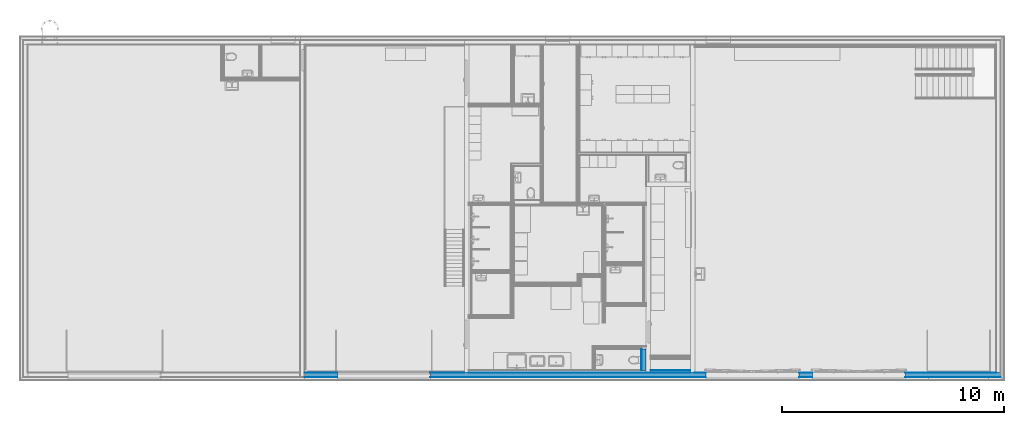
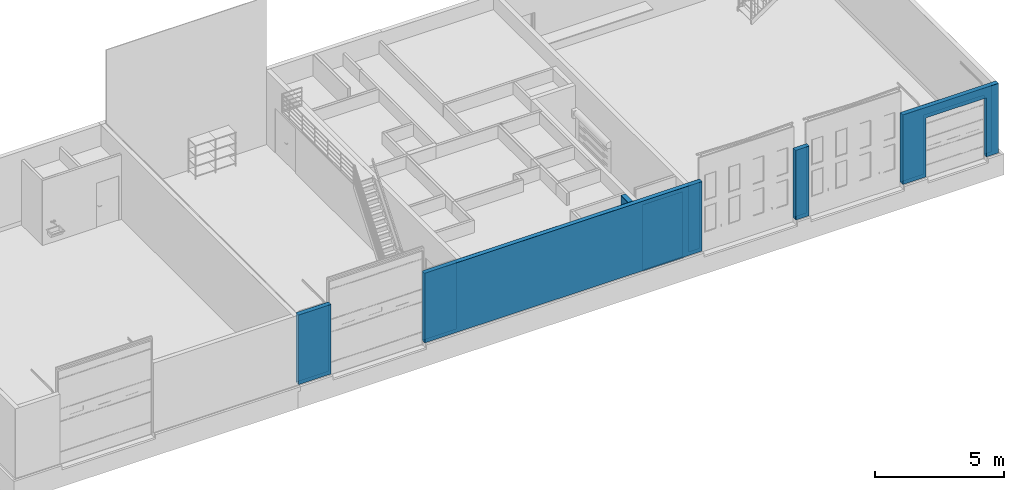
# One storey, part 5 of 67: 18 building element parts, 3 openings, 3 elements without a shape of their own.
"""IFC4 building model written with IfcOpenShell, lengths in millimetres."""

from ifc_helpers import new_model, entity, si_unit, converted_unit, direction, frame, origin, place, context, subcontext, project, spatial, indexed_curve, outline, extrude, polygons, material, type_object, element, aggregate, save


model = new_model("IFC4")

# Units and contexts
model_context = context("Model", 3, precision=0.01, world=origin(), true_north=direction((0.0, 1.0)))
body_context = subcontext(model_context, "Body", "Model", "MODEL_VIEW")
ifc_project = project(units=[si_unit("LENGTHUNIT", "METRE", prefix="MILLI"), si_unit("AREAUNIT", "SQUARE_METRE"), si_unit("VOLUMEUNIT", "CUBIC_METRE"), converted_unit("PLANEANGLEUNIT", "DEGREE", entity("IfcPlaneAngleMeasure", 0.017453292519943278), si_unit("PLANEANGLEUNIT", "RADIAN"), dimensions=[0, 0, 0, 0, 0, 0, 0])], contexts=[model_context])

# Site, building, storey
site_placement = place(None, origin())
site = spatial("IfcSite", under=ifc_project, at=site_placement, Name="Tomtens navn", CompositionType="ELEMENT")
building_placement = place(site_placement, origin())
building = spatial("IfcBuilding", under=site, at=building_placement, Name="Byggets navn", CompositionType="ELEMENT")
storey_placement = place(building_placement, origin())
storey = spatial("IfcBuildingStorey", under=building, at=storey_placement, Name="Level 01", CompositionType="ELEMENT", Elevation=2.1993652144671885e-25)

# Wall, openings, building element parts
wall_type_1 = type_object("IfcWallType", Name="Basic Wall:YV02 Sandwichvegg 200", PredefinedType="STANDARD")
wall_1_placement = place(storey_placement, frame((82622.8535281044, 7961.466456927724, 200.0), z_axis=(0.0, 0.0, 1.0), x_axis=(-1.0, 0.0, 0.0)))
wall_1 = element("IfcWall", 1, at=wall_1_placement, inside=storey, type_object=wall_type_1, Name="Basic Wall:YV02 Sandwichvegg 200", PredefinedType="NOTDEFINED")
opening_1_placement = place(wall_1_placement, frame((9100.0, -100.0, -200.0)))
element("IfcOpeningElement", 2, at=opening_1_placement, cuts=wall_1, Name="ASSA_ABLOY_FoldingDoor_FD2350P_2+2_Manual:42x45:1", PredefinedType="OPENING", context=body_context, shape_type="SweptSolid", body=[
    extrude(outline(indexed_curve([(0.0, 5.414335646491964e-13), (4499.999999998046, 5.414335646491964e-13), (4499.999999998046, 4199.999999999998), (0.0, 4199.999999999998), (0.0, 5.414335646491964e-13)], self_intersect=False)), frame((0.0, 0.0, 0.0), z_axis=(0.0, 1.0, 0.0), x_axis=(0.0, 0.0, 1.0)), (0.0, 0.0, 1.0), 200.0),
])
opening_2_placement = place(wall_1_placement, frame((4300.0, -100.0, -200.0)))
element("IfcOpeningElement", 3, at=opening_2_placement, cuts=wall_1, Name="ASSA_ABLOY_FoldingDoor_FD2350P_2+2_Manual:42x45:1", PredefinedType="OPENING", context=body_context, shape_type="SweptSolid", body=[
    extrude(outline(indexed_curve([(0.0, 5.414335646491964e-13), (4499.999999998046, 5.414335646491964e-13), (4499.999999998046, 4199.999999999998), (0.0, 4199.999999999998), (0.0, 5.414335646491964e-13)], self_intersect=False)), frame((0.0, 0.0, 0.0), z_axis=(0.0, 1.0, 0.0), x_axis=(0.0, 0.0, 1.0)), (0.0, 0.0, 1.0), 200.0),
])
opening_3_placement = place(wall_1_placement, frame((3250.0, 100.0, -200.0)))
element("IfcOpeningElement", 4, at=opening_3_placement, cuts=wall_1, Name="Garage Door_9:P04 2700 x 3000:1", PredefinedType="OPENING", context=body_context, shape_type="SweptSolid", body=[
    extrude(outline(indexed_curve([(0.0, 1.028723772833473e-11), (2999.999999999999, 1.028723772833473e-11), (2999.999999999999, 2700.00000000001), (0.0, 2700.00000000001), (0.0, 1.028723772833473e-11)], self_intersect=False)), frame((0.0, 0.0, 0.0), z_axis=(0.0, -1.0, 0.0), x_axis=(0.0, 0.0, 1.0)), (0.0, 0.0, 1.0), 200.0),
])
ifc_material_1 = material(Name="Metall - Malt overflate - Mørk Grå, Matt", Category="Unassigned")
building_element_part_1_placement = place(wall_1_placement, origin())
building_element_part_1 = element("IfcBuildingElementPart", 5, at=building_element_part_1_placement, material=ifc_material_1, Name="Metall - Malt overflate - Mørk Grå, Matt", context=body_context, shape_type="SweptSolid", body=[
    extrude(outline(indexed_curve([(-0.9999999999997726, -300.0000000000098), (0.9999999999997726, -300.0000000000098), (0.9999999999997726, 300.0000000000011), (-0.9999999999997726, 300.0000000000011), (-0.9999999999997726, -300.0000000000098)], self_intersect=False)), frame((8800.0, 99.0, 0.0), z_axis=(0.0, 0.0, 1.0), x_axis=(0.0, 1.0, 0.0)), (0.0, 0.0, 1.0), 3299.999999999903),
])
building_element_part_2_placement = place(wall_1_placement, origin())
building_element_part_2 = element("IfcBuildingElementPart", 6, at=building_element_part_2_placement, material=ifc_material_1, Name="Metall - Malt overflate - Mørk Grå, Matt", context=body_context, shape_type="SweptSolid", body=[
    extrude(outline(indexed_curve([(-0.9999999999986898, -6219.999999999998), (1.0000000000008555, -6219.999999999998), (0.9999999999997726, 6220.000000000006), (-0.9999999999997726, 6220.000000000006), (-0.9999999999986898, -6219.999999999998)], self_intersect=False)), frame((19520.0, 99.0, 0.0), z_axis=(0.0, 0.0, 1.0), x_axis=(0.0, 1.0, 0.0)), (0.0, 0.0, 1.0), 3299.999999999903),
])
building_element_part_3_placement = place(wall_1_placement, origin())
building_element_part_3 = element("IfcBuildingElementPart", 7, at=building_element_part_3_placement, material=ifc_material_1, Name="Metall - Malt overflate - Mørk Grå, Matt", context=body_context, shape_type="SweptSolid", body=[
    extrude(outline(indexed_curve([(-0.9999999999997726, -735.0000000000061), (0.9999999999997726, -734.9999999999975), (0.9999999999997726, 735.0000000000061), (-0.9999999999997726, 735.0000000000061), (-0.9999999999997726, -735.0000000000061)], self_intersect=False)), frame((30675.0, 99.0, 0.0), z_axis=(0.0, 0.0, 1.0), x_axis=(0.0, 1.0, 0.0)), (0.0, 0.0, 1.0), 3299.999999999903),
])
building_element_part_4_placement = place(wall_1_placement, frame((4300.0, 100.0, 0.0)))
building_element_part_4 = element("IfcBuildingElementPart", 8, at=building_element_part_4_placement, material=ifc_material_1, Name="Metall - Malt overflate - Mørk Grå, Matt", context=body_context, shape_type="Tessellation", body=[
    polygons([(-1049.9999999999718, -1.9999999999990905, 0.0), (-8.699627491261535e-13, -1.9999999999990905, 0.0), (-8.699627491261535e-13, -1.9999999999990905, 3299.999999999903), (-4299.999999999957, -1.9999999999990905, 3299.999999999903), (-4299.999999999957, -1.9999999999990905, 0.0), (-3749.999999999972, -1.9999999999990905, 0.0), (-3749.999999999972, -1.9999999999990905, 2799.999999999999), (-1049.9999999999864, -1.9999999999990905, 2799.999999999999), (-4299.999999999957, 0.0, 0.0), (-3749.999999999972, 0.0, 0.0), (-8.697414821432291e-13, 0.0, 0.0), (-8.697414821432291e-13, 0.0, 3299.999999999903), (-4299.999999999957, 0.0, 3299.999999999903), (-1049.9999999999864, 0.0, 2799.999999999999), (-1049.9999999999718, 0.0, 0.0), (-3749.999999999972, 0.0, 2799.999999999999)], [[[1, 2, 3, 4, 5, 6, 7, 8]], [[9, 10, 6, 5]], [[11, 12, 3, 2]], [[13, 9, 5, 4]], [[14, 15, 1, 8]], [[10, 16, 7, 6]], [[16, 14, 8, 7]], [[12, 13, 4, 3]], [[15, 11, 2, 1]], [[13, 12, 11, 15, 14, 16, 10, 9]]], closed=True),
])
ifc_material_2 = material(Name="Rustfritt Stål", Category="Metal")
building_element_part_5_placement = place(wall_1_placement, frame((24000.0, -98.0, 0.0)))
building_element_part_5 = element("IfcBuildingElementPart", 9, at=building_element_part_5_placement, material=ifc_material_2, Name="Rustfritt Stål", context=body_context, shape_type="Tessellation", body=[
    polygons([(-8000.000000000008, -2.0, 2887.999999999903), (-8000.000000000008, 0.0, 2887.999999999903), (-8000.000000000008, 0.0, 0.0), (-8000.000000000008, -2.0, 0.0), (-8199.999999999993, -2.0000000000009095, 2887.999999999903), (-8199.999999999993, 0.0, 2887.999999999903), (-8199.999999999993, -2.0, 0.0), (-8200.000000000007, 0.0, 0.0), (-9999.999999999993, -2.0000000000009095, 0.0), (-9999.999999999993, -2.0000000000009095, 3299.999999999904), (-9999.999999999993, -9.094947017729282e-13, 3299.999999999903), (-9999.999999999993, -9.094947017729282e-13, 0.0), (-8.918681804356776e-13, -2.0000000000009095, 3299.999999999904), (-8.918681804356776e-13, -2.0000000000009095, 0.0), (-8.916469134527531e-13, -9.094947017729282e-13, 0.0), (-8.916469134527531e-13, -9.094947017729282e-13, 3299.999999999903)], [[[1, 2, 3, 4]], [[2, 1, 5, 6]], [[6, 5, 7, 8]], [[9, 10, 11, 12]], [[13, 14, 15, 16]], [[13, 10, 9, 7, 5, 1, 4, 14]], [[2, 6, 8, 12, 11, 16, 15, 3]], [[8, 7, 9, 12]], [[4, 3, 15, 14]], [[10, 13, 16, 11]]], closed=True),
])
building_element_part_6_placement = place(wall_1_placement, origin())
building_element_part_6 = element("IfcBuildingElementPart", 10, at=building_element_part_6_placement, material=ifc_material_2, Name="Rustfritt Stål", context=body_context, shape_type="SweptSolid", body=[
    extrude(outline(indexed_curve([(-1.0000000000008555, -249.99999999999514), (0.9999999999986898, -249.99999999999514), (0.9999999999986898, 250.0000000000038), (-1.0000000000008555, 250.0000000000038), (-1.0000000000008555, -249.99999999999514)], self_intersect=False)), frame((13550.0, -99.0, 0.0), z_axis=(0.0, 0.0, 1.0), x_axis=(0.0, 1.0, 0.0)), (0.0, 0.0, 1.0), 3299.999999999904),
])
building_element_part_7_placement = place(wall_1_placement, origin())
building_element_part_7 = element("IfcBuildingElementPart", 11, at=building_element_part_7_placement, material=ifc_material_2, Name="Rustfritt Stål", context=body_context, shape_type="SweptSolid", body=[
    extrude(outline(indexed_curve([(-0.9999999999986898, -300.0000000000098), (1.0000000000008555, -300.0000000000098), (1.0000000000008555, 300.0000000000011), (-0.9999999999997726, 300.0000000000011), (-0.9999999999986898, -300.0000000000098)], self_intersect=False)), frame((8800.0, -99.0, 0.0), z_axis=(0.0, 0.0, 1.0), x_axis=(0.0, 1.0, 0.0)), (0.0, 0.0, 1.0), 3299.999999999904),
])
building_element_part_8_placement = place(wall_1_placement, origin())
building_element_part_8 = element("IfcBuildingElementPart", 12, at=building_element_part_8_placement, material=ifc_material_2, Name="Rustfritt Stål", context=body_context, shape_type="SweptSolid", body=[
    extrude(outline(indexed_curve([(-0.9999999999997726, -770.0000000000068), (0.9999999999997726, -770.0000000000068), (0.9999999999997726, 770.0000000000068), (-0.9999999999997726, 770.0000000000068), (-0.9999999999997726, -770.0000000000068)], self_intersect=False)), frame((24970.0, -99.0, 0.0), z_axis=(0.0, 0.0, 1.0), x_axis=(0.0, 1.0, 0.0)), (0.0, 0.0, 1.0), 3299.999999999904),
])
building_element_part_9_placement = place(wall_1_placement, origin())
building_element_part_9 = element("IfcBuildingElementPart", 13, at=building_element_part_9_placement, material=ifc_material_2, Name="Rustfritt Stål", context=body_context, shape_type="SweptSolid", body=[
    extrude(outline(indexed_curve([(-0.9999999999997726, -734.9999999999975), (0.9999999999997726, -734.9999999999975), (0.9999999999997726, 735.0000000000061), (-0.9999999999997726, 735.0000000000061), (-0.9999999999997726, -734.9999999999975)], self_intersect=False)), frame((30675.0, -99.0, 0.0), z_axis=(0.0, 0.0, 1.0), x_axis=(0.0, 1.0, 0.0)), (0.0, 0.0, 1.0), 3299.999999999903),
])
building_element_part_10_placement = place(wall_1_placement, frame((4300.0, -98.0, 0.0)))
building_element_part_10 = element("IfcBuildingElementPart", 14, at=building_element_part_10_placement, material=ifc_material_2, Name="Rustfritt Stål", context=body_context, shape_type="Tessellation", body=[
    polygons([(1.3660268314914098e-11, -9.094947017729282e-13, 0.0), (-1049.9999999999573, -9.094947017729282e-13, 0.0), (-1049.9999999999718, -9.094947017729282e-13, 2799.999999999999), (-3749.9999999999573, -9.094947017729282e-13, 2799.999999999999), (-3749.9999999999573, -9.094947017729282e-13, 0.0), (-4101.999999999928, -9.094947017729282e-13, 0.0), (-4101.999999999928, -9.094947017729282e-13, 3299.999999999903), (1.3660268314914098e-11, -9.094947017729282e-13, 3299.999999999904), (-3749.9999999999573, -2.0, 0.0), (-4099.999999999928, -1.9999999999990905, 0.0), (-4101.999999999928, -2.0, 0.0), (1.3660047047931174e-11, -2.0, 3299.999999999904), (1.3660047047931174e-11, -2.0, 0.0), (-1049.9999999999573, -2.0, 0.0), (-1049.9999999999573, -2.0, 2799.999999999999), (-3749.9999999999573, -2.0, 2799.999999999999), (-4101.999999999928, -2.0, 3299.999999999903), (-4099.999999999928, -1.9999999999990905, 3299.999999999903)], [[[1, 2, 3, 4, 5, 6, 7, 8]], [[6, 5, 9, 10, 11]], [[1, 8, 12, 13]], [[3, 2, 14, 15]], [[5, 4, 16, 9]], [[4, 3, 15, 16]], [[8, 7, 17, 18, 12]], [[2, 1, 13, 14]], [[11, 10, 9, 16, 15, 14, 13, 12, 18, 17]], [[11, 17, 7, 6]]], closed=True),
])
ifc_material_3 = material(Name="NO_Isolasjon - Fast", Category="Isolasjon")
building_element_part_11_placement = place(wall_1_placement, origin())
building_element_part_11 = element("IfcBuildingElementPart", 15, at=building_element_part_11_placement, material=ifc_material_3, Name="NO_Isolasjon - Fast", context=body_context, shape_type="SweptSolid", body=[
    extrude(outline(indexed_curve([(-98.00000000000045, -300.0000000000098), (98.00000000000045, -300.0000000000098), (98.00000000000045, 300.0000000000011), (-98.00000000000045, 300.0000000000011), (-98.00000000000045, -300.0000000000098)], self_intersect=False)), frame((8800.0, 0.0, 0.0), z_axis=(0.0, 0.0, 1.0), x_axis=(0.0, 1.0, 0.0)), (0.0, 0.0, 1.0), 3299.999999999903),
])
building_element_part_12_placement = place(wall_1_placement, origin())
building_element_part_12 = element("IfcBuildingElementPart", 16, at=building_element_part_12_placement, material=ifc_material_3, Name="NO_Isolasjon - Fast", context=body_context, shape_type="SweptSolid", body=[
    extrude(outline(indexed_curve([(-98.00000000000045, -734.9999999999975), (98.00000000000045, -735.0000000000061), (98.00000000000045, 735.0000000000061), (-98.00000000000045, 735.0000000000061), (-98.00000000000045, -734.9999999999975)], self_intersect=False)), frame((30675.0, 0.0, 0.0), z_axis=(0.0, 0.0, 1.0), x_axis=(0.0, 1.0, 0.0)), (0.0, 0.0, 1.0), 3299.999999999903),
])
building_element_part_13_placement = place(wall_1_placement, origin())
building_element_part_13 = element("IfcBuildingElementPart", 17, at=building_element_part_13_placement, material=ifc_material_3, Name="NO_Isolasjon - Fast", context=body_context, shape_type="SweptSolid", body=[
    extrude(outline(indexed_curve([(-98.00000000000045, -6219.999999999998), (98.00000000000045, -6219.999999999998), (97.99999999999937, 6220.000000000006), (-98.00000000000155, 6220.000000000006), (-98.00000000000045, -6219.999999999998)], self_intersect=False)), frame((19520.0, 0.0, 0.0), z_axis=(0.0, 0.0, 1.0), x_axis=(0.0, 1.0, 0.0)), (0.0, 0.0, 1.0), 3299.999999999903),
])
building_element_part_14_placement = place(wall_1_placement, frame((4300.0, 98.0, 0.0)))
building_element_part_14 = element("IfcBuildingElementPart", 18, at=building_element_part_14_placement, material=ifc_material_3, Name="NO_Isolasjon - Fast", context=body_context, shape_type="Tessellation", body=[
    polygons([(-8.699627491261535e-13, 9.094947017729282e-13, 0.0), (-1049.9999999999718, 9.094947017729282e-13, 0.0), (-1049.9999999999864, 9.094947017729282e-13, 2799.999999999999), (-3749.999999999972, 9.094947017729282e-13, 2799.999999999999), (-3749.999999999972, 9.094947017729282e-13, 0.0), (-4297.999999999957, 9.094947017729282e-13, 0.0), (-4297.999999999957, 9.094947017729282e-13, 3299.999999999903), (-8.699627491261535e-13, 9.094947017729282e-13, 3299.999999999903), (-1049.9999999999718, -196.00000000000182, 0.0), (-8.916469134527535e-13, -196.00000000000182, 0.0), (-8.916469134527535e-13, -196.00000000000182, 3299.999999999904), (-4297.999999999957, -196.00000000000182, 3299.999999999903), (-4297.999999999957, -196.00000000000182, 0.0), (-3749.999999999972, -196.00000000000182, 0.0), (-3749.999999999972, -196.00000000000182, 2799.999999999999), (-1049.9999999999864, -196.00000000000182, 2799.999999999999)], [[[1, 2, 3, 4, 5, 6, 7, 8]], [[9, 10, 11, 12, 13, 14, 15, 16]], [[13, 6, 5, 14]], [[10, 1, 8, 11]], [[2, 9, 16, 3]], [[14, 5, 4, 15]], [[15, 4, 3, 16]], [[11, 8, 7, 12]], [[1, 10, 9, 2]], [[6, 13, 12, 7]]], closed=True),
])
aggregate(wall_1, [building_element_part_1, building_element_part_2, building_element_part_3, building_element_part_4, building_element_part_5, building_element_part_6, building_element_part_7, building_element_part_8, building_element_part_9, building_element_part_10, building_element_part_11, building_element_part_12, building_element_part_13, building_element_part_14])

# Wall, building element parts
wall_type_2 = type_object("IfcWallType", Name="Basic Wall:IV13 Utforing 198 stender+Forestia", PredefinedType="STANDARD")
wall_2_placement = place(storey_placement, frame((66517.35352810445, 9126.466456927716, 0.0), z_axis=(0.0, 0.0, 1.0), x_axis=(0.0, -1.0, 0.0)))
wall_2 = element("IfcWall", 19, at=wall_2_placement, inside=storey, type_object=wall_type_2, Name="Basic Wall:IV13 Utforing 198 stender+Forestia", PredefinedType="NOTDEFINED")
ifc_material_4 = material(Name="NO_Konstruksjon - Isolert", Category="Tre")
building_element_part_15_placement = place(wall_2_placement, origin())
building_element_part_15 = element("IfcBuildingElementPart", 20, at=building_element_part_15_placement, material=ifc_material_4, Name="NO_Konstruksjon - Isolert", context=body_context, shape_type="SweptSolid", body=[
    extrude(outline(indexed_curve([(-490.49999999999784, -99.00000000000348), (490.49999999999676, -99.00000000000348), (490.49999999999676, 98.99999999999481), (-490.49999999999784, 98.99999999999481), (-490.49999999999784, -99.00000000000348)], self_intersect=False)), frame((477.49999999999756, 6.500000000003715, 0.0)), (0.0, 0.0, 1.0), 3087.999999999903),
])
ifc_material_5 = material(Name="NO_platekledning forestia", Category="Tre")
building_element_part_16_placement = place(wall_2_placement, origin())
building_element_part_16 = element("IfcBuildingElementPart", 21, at=building_element_part_16_placement, material=ifc_material_5, Name="NO_platekledning forestia", context=body_context, shape_type="SweptSolid", body=[
    extrude(outline(indexed_curve([(-476.4999999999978, -6.499999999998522), (476.4999999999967, -6.499999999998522), (476.4999999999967, 6.500000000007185), (-476.4999999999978, 6.500000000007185), (-476.4999999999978, -6.499999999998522)], self_intersect=False)), frame((476.4999999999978, -99.0, 0.0)), (0.0, 0.0, 1.0), 3087.999999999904),
])
aggregate(wall_2, [building_element_part_15, building_element_part_16])

wall_type_3 = type_object("IfcWallType", Name="Basic Wall:IV12 Utforing Stender(48)-Forestia", PredefinedType="STANDARD")
wall_3_placement = place(storey_placement, frame((68622.85352810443, 8118.466456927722, 0.0), z_axis=(0.0, 0.0, 1.0), x_axis=(-1.0, 0.0, 0.0)))
wall_3 = element("IfcWall", 22, at=wall_3_placement, inside=storey, type_object=wall_type_3, Name="Basic Wall:IV12 Utforing Stender(48)-Forestia", PredefinedType="NOTDEFINED")
building_element_part_17_placement = place(wall_3_placement, origin())
building_element_part_17 = element("IfcBuildingElementPart", 23, at=building_element_part_17_placement, material=ifc_material_5, Name="NO_platekledning forestia", context=body_context, shape_type="SweptSolid", body=[
    extrude(outline(indexed_curve([(-7.499999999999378, -900.0000000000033), (7.500000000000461, -900.0000000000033), (7.500000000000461, 900.0000000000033), (-7.499999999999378, 900.0000000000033), (-7.499999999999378, -900.0000000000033)], self_intersect=False)), frame((900.0, -47.50000000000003, 0.0), z_axis=(0.0, 0.0, 1.0), x_axis=(0.0, 1.0, 0.0)), (0.0, 0.0, 1.0), 3087.999999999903),
])
ifc_material_6 = material(Name="Stender", Category="Unassigned")
building_element_part_18_placement = place(wall_3_placement, origin())
building_element_part_18 = element("IfcBuildingElementPart", 24, at=building_element_part_18_placement, material=ifc_material_6, Name="Stender", context=body_context, shape_type="SweptSolid", body=[
    extrude(outline(indexed_curve([(-47.50000000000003, -900.0000000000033), (47.50000000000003, -900.0000000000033), (47.50000000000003, 900.0000000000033), (-47.50000000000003, 900.0000000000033), (-47.50000000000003, -900.0000000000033)], self_intersect=False)), frame((900.0, 7.500000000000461, 0.0), z_axis=(0.0, 0.0, 1.0), x_axis=(0.0, 1.0, 0.0)), (0.0, 0.0, 1.0), 3087.999999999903),
])
aggregate(wall_3, [building_element_part_17, building_element_part_18])

save(model, "model.ifc")
